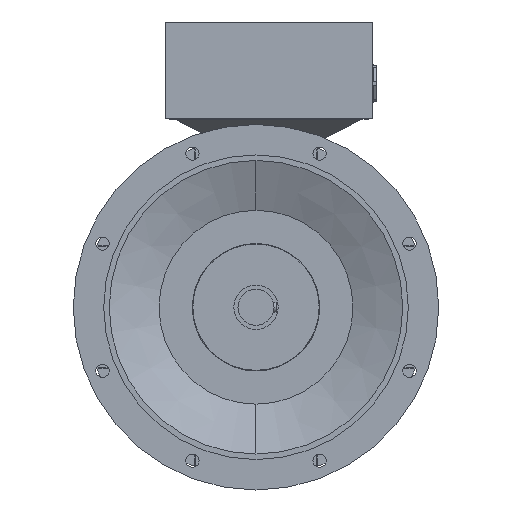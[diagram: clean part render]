
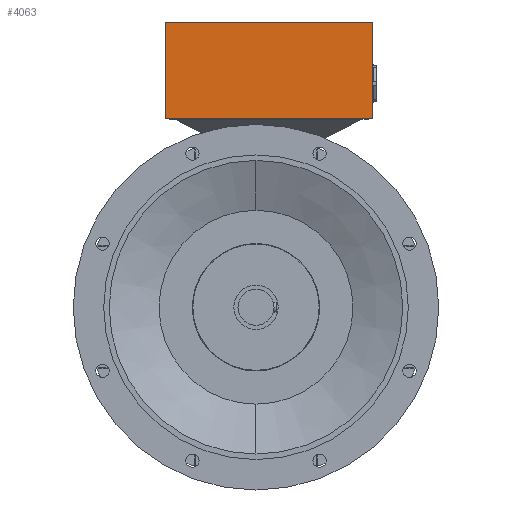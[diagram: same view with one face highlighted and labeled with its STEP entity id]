
A CAD part, left-side view. The second image highlights one B-rep face of the part: STEP entity #4063.
In plain terms, the highlighted planar face has unit normal (-1, 0, 0).
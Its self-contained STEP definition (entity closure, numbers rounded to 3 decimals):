
#928 = FACE_OUTER_BOUND ( 'NONE', #18915, .T. ) ;
#3265 = DIRECTION ( 'NONE',  ( 0., -1., 0. ) ) ;
#3270 = CARTESIAN_POINT ( 'NONE',  ( -21.5, -23., 515. ) ) ;
#3276 = DIRECTION ( 'NONE',  ( 0., 1., 0. ) ) ;
#3285 = CARTESIAN_POINT ( 'NONE',  ( -21.5, -23., 340.5 ) ) ;
#3525 = CARTESIAN_POINT ( 'NONE',  ( -21.5, 164., 427.75 ) ) ;
#3527 = DIRECTION ( 'NONE',  ( 0., 0., -1. ) ) ;
#3540 = CARTESIAN_POINT ( 'NONE',  ( -21.5, -210., 427.75 ) ) ;
#3545 = DIRECTION ( 'NONE',  ( 0., 0., -1. ) ) ;
#4063 = ADVANCED_FACE ( 'NONE', ( #928 ), #22387, .F. ) ;
#4857 = ORIENTED_EDGE ( 'NONE', *, *, #20983, .F. ) ;
#4859 = ORIENTED_EDGE ( 'NONE', *, *, #20913, .F. ) ;
#4861 = ORIENTED_EDGE ( 'NONE', *, *, #20974, .T. ) ;
#4862 = ORIENTED_EDGE ( 'NONE', *, *, #20918, .F. ) ;
#9510 = LINE ( 'NONE', #3270, #9516 ) ;
#9516 = VECTOR ( 'NONE', #3265, 1000. ) ;
#9537 = LINE ( 'NONE', #3285, #9542 ) ;
#9542 = VECTOR ( 'NONE', #3276, 1000. ) ;
#10631 = VERTEX_POINT ( 'NONE', #19090 ) ;
#10661 = VERTEX_POINT ( 'NONE', #19155 ) ;
#10806 = VERTEX_POINT ( 'NONE', #19493 ) ;
#10811 = VERTEX_POINT ( 'NONE', #19506 ) ;
#11369 = LINE ( 'NONE', #3525, #11372 ) ;
#11372 = VECTOR ( 'NONE', #3527, 1000. ) ;
#11379 = LINE ( 'NONE', #3540, #11389 ) ;
#11389 = VECTOR ( 'NONE', #3545, 1000. ) ;
#17856 = AXIS2_PLACEMENT_3D ( 'NONE', #22388, #22393, #22394 ) ;
#18915 = EDGE_LOOP ( 'NONE', ( #4857, #4859, #4861, #4862 ) ) ;
#19090 = CARTESIAN_POINT ( 'NONE',  ( -21.5, -210., 515. ) ) ;
#19155 = CARTESIAN_POINT ( 'NONE',  ( -21.5, 164., 340.5 ) ) ;
#19493 = CARTESIAN_POINT ( 'NONE',  ( -21.5, -210., 340.5 ) ) ;
#19506 = CARTESIAN_POINT ( 'NONE',  ( -21.5, 164., 515. ) ) ;
#20913 = EDGE_CURVE ( 'NONE', #10811, #10631, #9510, .T. ) ;
#20918 = EDGE_CURVE ( 'NONE', #10806, #10661, #9537, .T. ) ;
#20974 = EDGE_CURVE ( 'NONE', #10811, #10661, #11369, .T. ) ;
#20983 = EDGE_CURVE ( 'NONE', #10631, #10806, #11379, .T. ) ;
#22387 = PLANE ( 'NONE',  #17856 ) ;
#22388 = CARTESIAN_POINT ( 'NONE',  ( -21.5, -23., 427.75 ) ) ;
#22393 = DIRECTION ( 'NONE',  ( 1., 0., 0. ) ) ;
#22394 = DIRECTION ( 'NONE',  ( 0., 0., -1. ) ) ;
